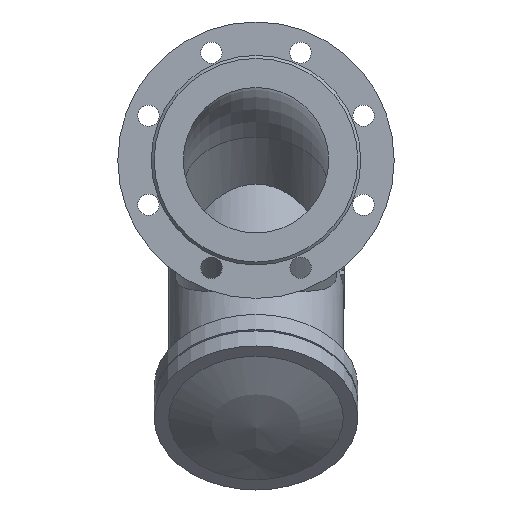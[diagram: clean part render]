
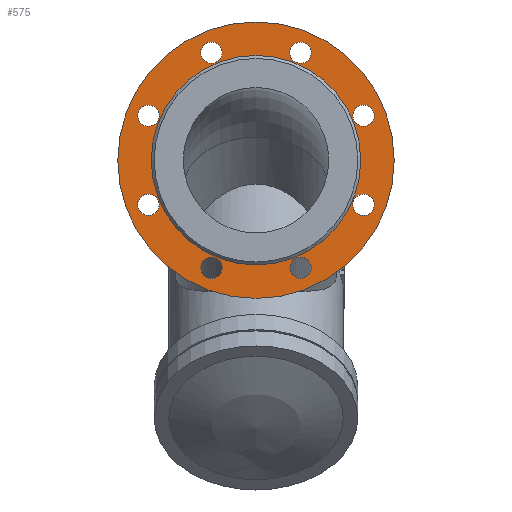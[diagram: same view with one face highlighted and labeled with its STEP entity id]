
A CAD part, front view. The second image highlights one B-rep face of the part: STEP entity #575.
In plain terms, the highlighted planar face has unit normal (0, -1, 0).
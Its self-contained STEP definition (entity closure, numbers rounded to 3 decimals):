
#575=ADVANCED_FACE('',(#1234,#1236,#1238,#1240,#1242,#1244,#1246,#1248,#1250,#1252),
#1254,.T.);
#1234=FACE_BOUND('',#1235,.T.);
#1235=EDGE_LOOP('',(#1638));
#1236=FACE_BOUND('',#1237,.T.);
#1237=EDGE_LOOP('',(#1639));
#1238=FACE_BOUND('',#1239,.T.);
#1239=EDGE_LOOP('',(#1640));
#1240=FACE_BOUND('',#1241,.T.);
#1241=EDGE_LOOP('',(#1641));
#1242=FACE_BOUND('',#1243,.T.);
#1243=EDGE_LOOP('',(#1642));
#1244=FACE_BOUND('',#1245,.T.);
#1245=EDGE_LOOP('',(#1643));
#1246=FACE_BOUND('',#1247,.T.);
#1247=EDGE_LOOP('',(#1644));
#1248=FACE_BOUND('',#1249,.T.);
#1249=EDGE_LOOP('',(#1645));
#1250=FACE_BOUND('',#1251,.T.);
#1251=EDGE_LOOP('',(#1646));
#1252=FACE_BOUND('',#1253,.T.);
#1253=EDGE_LOOP('',(#1647));
#1254=PLANE('',#1255);
#1255=AXIS2_PLACEMENT_3D('',#1256,#1257,#1258);
#1256=CARTESIAN_POINT('',(0.,-237.,0.));
#1257=DIRECTION('',(0.,-1.,0.));
#1258=DIRECTION('',(0.,0.,1.));
#1638=ORIENTED_EDGE('',*,*,#1788,.F.);
#1639=ORIENTED_EDGE('',*,*,#1796,.T.);
#1640=ORIENTED_EDGE('',*,*,#1795,.T.);
#1641=ORIENTED_EDGE('',*,*,#1794,.T.);
#1642=ORIENTED_EDGE('',*,*,#1793,.T.);
#1643=ORIENTED_EDGE('',*,*,#1792,.T.);
#1644=ORIENTED_EDGE('',*,*,#1791,.T.);
#1645=ORIENTED_EDGE('',*,*,#1790,.T.);
#1646=ORIENTED_EDGE('',*,*,#1807,.T.);
#1647=ORIENTED_EDGE('',*,*,#1789,.T.);
#1788=EDGE_CURVE('',#2000,#2000,#2001,.T.);
#1789=EDGE_CURVE('',#2002,#2002,#2003,.F.);
#1790=EDGE_CURVE('',#2004,#2004,#2005,.F.);
#1791=EDGE_CURVE('',#2006,#2006,#2007,.F.);
#1792=EDGE_CURVE('',#2008,#2008,#2009,.F.);
#1793=EDGE_CURVE('',#2010,#2010,#2011,.F.);
#1794=EDGE_CURVE('',#2012,#2012,#2013,.F.);
#1795=EDGE_CURVE('',#2014,#2014,#2015,.F.);
#1796=EDGE_CURVE('',#2016,#2016,#2017,.F.);
#1807=EDGE_CURVE('',#2038,#2038,#2039,.T.);
#2000=VERTEX_POINT('',#3331);
#2001=CIRCLE('',#3332,142.5);
#2002=VERTEX_POINT('',#3336);
#2003=CIRCLE('',#3337,11.);
#2004=VERTEX_POINT('',#3341);
#2005=CIRCLE('',#3342,11.);
#2006=VERTEX_POINT('',#3346);
#2007=CIRCLE('',#3347,11.);
#2008=VERTEX_POINT('',#3351);
#2009=CIRCLE('',#3352,11.);
#2010=VERTEX_POINT('',#3356);
#2011=CIRCLE('',#3357,11.);
#2012=VERTEX_POINT('',#3361);
#2013=CIRCLE('',#3362,11.);
#2014=VERTEX_POINT('',#3366);
#2015=CIRCLE('',#3367,11.);
#2016=VERTEX_POINT('',#3371);
#2017=CIRCLE('',#3372,11.);
#2038=VERTEX_POINT('',#3426);
#2039=CIRCLE('',#3427,108.);
#3331=CARTESIAN_POINT('',(0.,-237.,142.5));
#3332=AXIS2_PLACEMENT_3D('',#3333,#3334,#3335);
#3333=CARTESIAN_POINT('',(0.,-237.,0.));
#3334=DIRECTION('',(0.,1.,0.));
#3335=DIRECTION('',(0.,0.,1.));
#3336=CARTESIAN_POINT('',(-34.922,-237.,110.866));
#3337=AXIS2_PLACEMENT_3D('',#3338,#3339,#3340);
#3338=CARTESIAN_POINT('',(-45.922,-237.,110.866));
#3339=DIRECTION('',(0.,-1.,0.));
#3340=DIRECTION('',(1.,0.,0.));
#3341=CARTESIAN_POINT('',(-103.087,-237.,53.7));
#3342=AXIS2_PLACEMENT_3D('',#3343,#3344,#3345);
#3343=CARTESIAN_POINT('',(-110.866,-237.,45.922));
#3344=DIRECTION('',(0.,-1.,0.));
#3345=DIRECTION('',(0.707,0.,0.707));
#3346=CARTESIAN_POINT('',(-110.866,-237.,-34.922));
#3347=AXIS2_PLACEMENT_3D('',#3348,#3349,#3350);
#3348=CARTESIAN_POINT('',(-110.866,-237.,-45.922));
#3349=DIRECTION('',(0.,-1.,0.));
#3350=DIRECTION('',(0.,0.,1.));
#3351=CARTESIAN_POINT('',(-53.7,-237.,-103.087));
#3352=AXIS2_PLACEMENT_3D('',#3353,#3354,#3355);
#3353=CARTESIAN_POINT('',(-45.922,-237.,-110.866));
#3354=DIRECTION('',(0.,-1.,0.));
#3355=DIRECTION('',(-0.707,0.,0.707));
#3356=CARTESIAN_POINT('',(34.922,-237.,-110.866));
#3357=AXIS2_PLACEMENT_3D('',#3358,#3359,#3360);
#3358=CARTESIAN_POINT('',(45.922,-237.,-110.866));
#3359=DIRECTION('',(0.,-1.,0.));
#3360=DIRECTION('',(-1.,0.,0.));
#3361=CARTESIAN_POINT('',(103.087,-237.,-53.7));
#3362=AXIS2_PLACEMENT_3D('',#3363,#3364,#3365);
#3363=CARTESIAN_POINT('',(110.866,-237.,-45.922));
#3364=DIRECTION('',(0.,-1.,0.));
#3365=DIRECTION('',(-0.707,0.,-0.707));
#3366=CARTESIAN_POINT('',(110.866,-237.,34.922));
#3367=AXIS2_PLACEMENT_3D('',#3368,#3369,#3370);
#3368=CARTESIAN_POINT('',(110.866,-237.,45.922));
#3369=DIRECTION('',(0.,-1.,0.));
#3370=DIRECTION('',(0.,0.,-1.));
#3371=CARTESIAN_POINT('',(53.7,-237.,103.087));
#3372=AXIS2_PLACEMENT_3D('',#3373,#3374,#3375);
#3373=CARTESIAN_POINT('',(45.922,-237.,110.866));
#3374=DIRECTION('',(0.,-1.,0.));
#3375=DIRECTION('',(0.707,0.,-0.707));
#3426=CARTESIAN_POINT('',(0.,-237.,108.));
#3427=AXIS2_PLACEMENT_3D('',#3428,#3429,#3430);
#3428=CARTESIAN_POINT('',(0.,-237.,0.));
#3429=DIRECTION('',(0.,1.,0.));
#3430=DIRECTION('',(0.,0.,1.));
